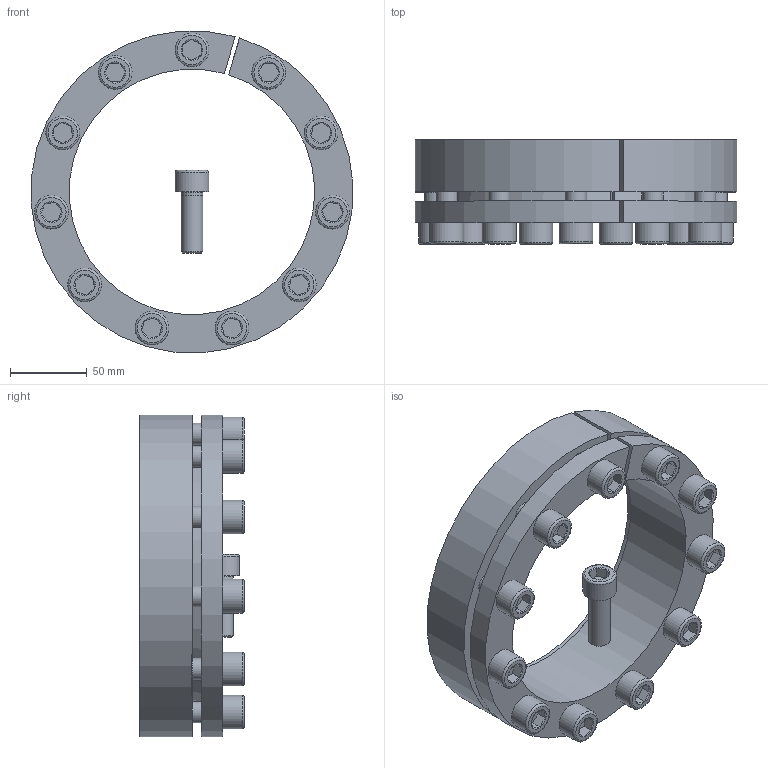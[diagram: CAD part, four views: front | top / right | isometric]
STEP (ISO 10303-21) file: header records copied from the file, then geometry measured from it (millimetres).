
FILE_DESCRIPTION( ( 'Unknown' ), '1' );
FILE_NAME( 'C:/Dokumente und Einstellungen/Sven/Desktop/homepage/cad - homepage/KBS13/KBS 13 - 160 x 210.stp', 'Unknown', ( 'Unknown' ), ( 'Unknown' ), 'XStep 1.0', 'Unknown', ' ' );
FILE_SCHEMA( ( 'automotive_design' ) );
Length unit declared in the file: millimetre
Products named in the file (3): Assem1; KBS 13 - 160 x 210; ISO EN DIN 4762 M14x40
Bounding box: 209.59 x 68 x 209.49 mm (x, y, z)
Volume: 1378491.5 mm3; surface area: 312941.4 mm2
Topology: 14 solids, 14 shells, 368 faces, 752 edges, 460 vertices
Faces by surface type: plane 158, cylinder 98, cone 88, torus 24
Full cylindrical faces by diameter (mm): 12 x12, 14 x68, 22 x12
Entity records: 2008 total; most frequent: CARTESIAN_POINT 338, DIRECTION 314, ORIENTED_EDGE 218, AXIS2_PLACEMENT_3D 143, EDGE_LOOP 136, EDGE_CURVE 109, FACE_OUTER_BOUND 87, VERTEX_POINT 87
